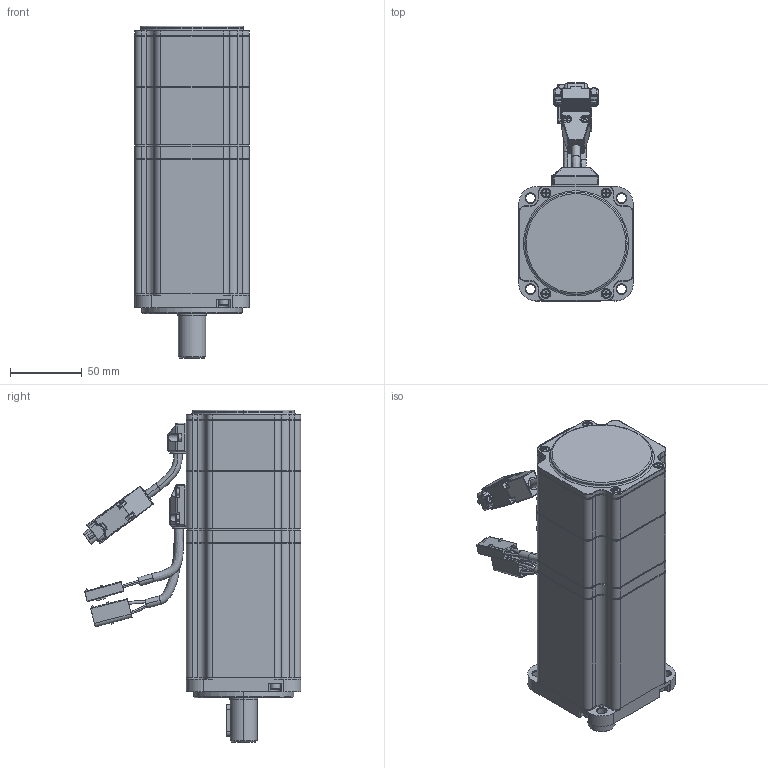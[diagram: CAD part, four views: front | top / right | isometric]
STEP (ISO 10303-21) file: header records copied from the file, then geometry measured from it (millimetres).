
FILE_DESCRIPTION (( 'STEP AP203' ), '1' );
FILE_NAME ('L80-753026XBL（SMH80-753026XBL-XX）.STEP', '2016-06-08T02:10:33', ( '微软用户' ), ( '微软中国' ), 'SwSTEP 2.0', 'SolidWorks 2011', '' );
FILE_SCHEMA (( 'CONFIG_CONTROL_DESIGN' ));
Products named in the file (28): L80-753026XBL（SMH80-753026XBL-XX）; 嘎殤蚐猾; hexagon socket head cap screws gb_GB_FASTENER_SCREWS_HSHCS M2.5X8-N; 晤鎢ん竘盄碟; 晤鎢ん竘盄菜; 价陬欶; hexagon socket head cap screws gb_GB_FASTENER_SCREWS_HSHCS M2.5X10-N; 竘盄碟; 竘盄菜; circlips for holes--type a gb_GB_CONNECTING_PIECE_RING_RRH 42; 瑩; cross recessed countersunk head screws gb2_GB_CROSS_SCREWS_TYPE10 M3X8-6.35-H1-N; hexagon socket head cap screws gb_GB_FASTENER_SCREWS_HSHCS M4X35-N; 鎢攫欶綴裔; 躇猾菜; 鎢攫欶; 蛌赽軞傖_Default; 綴傷裔; deep groove ball bearings gb_Rolling bearings 6004 GB 276-94; deep groove ball bearings gb_Rolling bearings 6002 GB 276-94; circlips for shaft--type a large gb_GB_CONNECTING_PIECE_RING_RRA 15; 蛌赽郪璃_Default; 蛌粣; 隅赽軞傖_Default; hexagon socket head cap screws gb_GB_FASTENER_SCREWS_HSHCS M4X16-N; ヶ傷裔И璃; 儂褲; ヶ傷裔
Assembly tree (51 placements, depth 4):
  L80-753026XBL（SMH80-753026XBL-XX）
    隅赽軞傖_Default
      hexagon socket head cap screws gb_GB_FASTENER_SCREWS_HSHCS M4X16-N  x4
      ヶ傷裔И璃
      儂褲
      ヶ傷裔
    竘盄菜
    circlips for holes--type a gb_GB_CONNECTING_PIECE_RING_RRH 42
    hexagon socket head cap screws gb_GB_FASTENER_SCREWS_HSHCS M4X16-N  x4
    瑩
    嘎殤蚐猾
    hexagon socket head cap screws gb_GB_FASTENER_SCREWS_HSHCS M2.5X8-N  x2
    晤鎢ん竘盄菜
    cross recessed countersunk head screws gb2_GB_CROSS_SCREWS_TYPE10 M3X8-6.35-H1-N  x4
    hexagon socket head cap screws gb_GB_FASTENER_SCREWS_HSHCS M4X35-N  x8
    晤鎢ん竘盄碟
    价陬欶
    躇猾菜  x4
    hexagon socket head cap screws gb_GB_FASTENER_SCREWS_HSHCS M2.5X10-N  x4
    竘盄碟
    鎢攫欶綴裔
    鎢攫欶
    蛌赽軞傖_Default
      蛌赽郪璃_Default
        蛌粣
      綴傷裔
      deep groove ball bearings gb_Rolling bearings 6004 GB 276-94
      deep groove ball bearings gb_Rolling bearings 6002 GB 276-94
      circlips for shaft--type a large gb_GB_CONNECTING_PIECE_RING_RRA 15
Bounding box: 80 x 152.21 x 232.1 mm (x, y, z)
Volume: 402970.1 mm3; surface area: 244636.9 mm2
Topology: 66 solids, 66 shells, 3431 faces, 9229 edges, 5738 vertices
Faces by surface type: cylinder 1408, plane 1273, cone 229, torus 213, sphere 176, bspline 132
Entity records: 97625 total; most frequent: CARTESIAN_POINT 25431, DIRECTION 14602, ORIENTED_EDGE 14458, EDGE_CURVE 7229, AXIS2_PLACEMENT_3D 5637, VERTEX_POINT 4602, VECTOR 3328, LINE 3328
